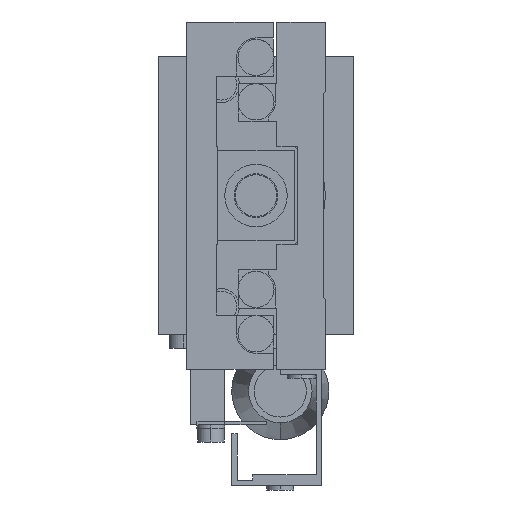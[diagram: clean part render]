
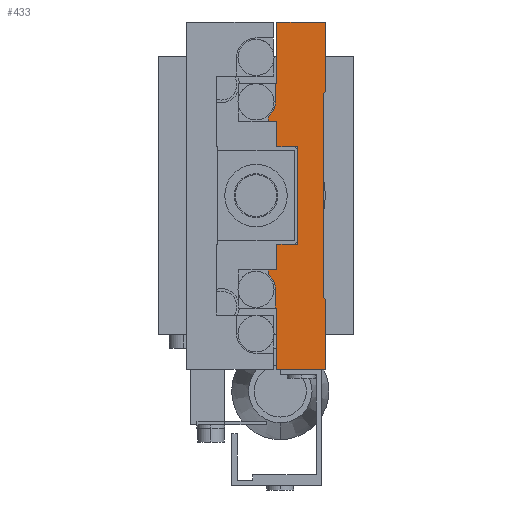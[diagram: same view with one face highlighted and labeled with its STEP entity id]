
A CAD part, left-side view. The second image highlights one B-rep face of the part: STEP entity #433.
In plain terms, the highlighted planar face has unit normal (-1, 0, 0).
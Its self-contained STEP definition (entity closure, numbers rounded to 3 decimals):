
#433=ADVANCED_FACE('',(#1255),#1256,.F.);
#1255=FACE_OUTER_BOUND('',#2740,.T.);
#1256=PLANE('',#2741);
#2740=EDGE_LOOP('',(#4895,#4896,#4897,#4898,#4899,#4900,#4901,#4902,#4903,#4904,#4905,#4906,#4907,#4908,#4909,#4910,#4911,#4912,#4913,#4914,#4915,#4916,#4917,#4918));
#2741=AXIS2_PLACEMENT_3D('',#4919,#4920,#4921);
#4895=ORIENTED_EDGE('',*,*,#9823,.T.);
#4896=ORIENTED_EDGE('',*,*,#9824,.T.);
#4897=ORIENTED_EDGE('',*,*,#9825,.T.);
#4898=ORIENTED_EDGE('',*,*,#9826,.F.);
#4899=ORIENTED_EDGE('',*,*,#9827,.F.);
#4900=ORIENTED_EDGE('',*,*,#9828,.F.);
#4901=ORIENTED_EDGE('',*,*,#9829,.F.);
#4902=ORIENTED_EDGE('',*,*,#9830,.F.);
#4903=ORIENTED_EDGE('',*,*,#9831,.F.);
#4904=ORIENTED_EDGE('',*,*,#9832,.F.);
#4905=ORIENTED_EDGE('',*,*,#9833,.F.);
#4906=ORIENTED_EDGE('',*,*,#9834,.F.);
#4907=ORIENTED_EDGE('',*,*,#9835,.F.);
#4908=ORIENTED_EDGE('',*,*,#9836,.F.);
#4909=ORIENTED_EDGE('',*,*,#9837,.T.);
#4910=ORIENTED_EDGE('',*,*,#9838,.T.);
#4911=ORIENTED_EDGE('',*,*,#9839,.T.);
#4912=ORIENTED_EDGE('',*,*,#9840,.F.);
#4913=ORIENTED_EDGE('',*,*,#9841,.F.);
#4914=ORIENTED_EDGE('',*,*,#9842,.F.);
#4915=ORIENTED_EDGE('',*,*,#9817,.F.);
#4916=ORIENTED_EDGE('',*,*,#9843,.F.);
#4917=ORIENTED_EDGE('',*,*,#9844,.F.);
#4918=ORIENTED_EDGE('',*,*,#9845,.F.);
#4919=CARTESIAN_POINT('',(-25.0,0.,0.0));
#4920=DIRECTION('',(1.0,0.0,0.0));
#4921=DIRECTION('',(0.0,1.0,0.0));
#9817=EDGE_CURVE('',#11773,#11774,#11775,.T.);
#9823=EDGE_CURVE('',#11784,#11785,#11786,.T.);
#9824=EDGE_CURVE('',#11785,#11787,#11788,.T.);
#9825=EDGE_CURVE('',#11787,#11789,#11790,.T.);
#9826=EDGE_CURVE('',#11791,#11789,#11792,.T.);
#9827=EDGE_CURVE('',#11793,#11791,#11794,.T.);
#9828=EDGE_CURVE('',#11795,#11793,#11796,.T.);
#9829=EDGE_CURVE('',#11797,#11795,#11798,.T.);
#9830=EDGE_CURVE('',#11799,#11797,#11800,.T.);
#9831=EDGE_CURVE('',#11801,#11799,#11802,.T.);
#9832=EDGE_CURVE('',#11803,#11801,#11804,.T.);
#9833=EDGE_CURVE('',#11805,#11803,#11806,.T.);
#9834=EDGE_CURVE('',#11807,#11805,#11808,.T.);
#9835=EDGE_CURVE('',#11809,#11807,#11810,.T.);
#9836=EDGE_CURVE('',#11811,#11809,#11812,.T.);
#9837=EDGE_CURVE('',#11811,#11813,#11814,.T.);
#9838=EDGE_CURVE('',#11813,#11815,#11816,.T.);
#9839=EDGE_CURVE('',#11815,#11817,#11818,.T.);
#9840=EDGE_CURVE('',#11819,#11817,#11820,.T.);
#9841=EDGE_CURVE('',#11821,#11819,#11822,.T.);
#9842=EDGE_CURVE('',#11774,#11821,#11823,.T.);
#9843=EDGE_CURVE('',#11824,#11773,#11825,.T.);
#9844=EDGE_CURVE('',#11826,#11824,#11827,.T.);
#9845=EDGE_CURVE('',#11784,#11826,#11828,.T.);
#11773=VERTEX_POINT('',#14803);
#11774=VERTEX_POINT('',#14804);
#11775=LINE('',#14805,#14806);
#11784=VERTEX_POINT('',#14818);
#11785=VERTEX_POINT('',#14819);
#11786=LINE('',#14820,#14821);
#11787=VERTEX_POINT('',#14822);
#11788=CIRCLE('',#14823,2.8);
#11789=VERTEX_POINT('',#14824);
#11790=LINE('',#14825,#14826);
#11791=VERTEX_POINT('',#14827);
#11792=LINE('',#14828,#14829);
#11793=VERTEX_POINT('',#14830);
#11794=LINE('',#14831,#14832);
#11795=VERTEX_POINT('',#14833);
#11796=LINE('',#14834,#14835);
#11797=VERTEX_POINT('',#14836);
#11798=LINE('',#14837,#14838);
#11799=VERTEX_POINT('',#14839);
#11800=LINE('',#14840,#14841);
#11801=VERTEX_POINT('',#14842);
#11802=LINE('',#14843,#14844);
#11803=VERTEX_POINT('',#14845);
#11804=LINE('',#14846,#14847);
#11805=VERTEX_POINT('',#14848);
#11806=LINE('',#14849,#14850);
#11807=VERTEX_POINT('',#14851);
#11808=LINE('',#14852,#14853);
#11809=VERTEX_POINT('',#14854);
#11810=LINE('',#14855,#14856);
#11811=VERTEX_POINT('',#14857);
#11812=LINE('',#14858,#14859);
#11813=VERTEX_POINT('',#14860);
#11814=LINE('',#14861,#14862);
#11815=VERTEX_POINT('',#14863);
#11816=CIRCLE('',#14864,2.8);
#11817=VERTEX_POINT('',#14865);
#11818=LINE('',#14866,#14867);
#11819=VERTEX_POINT('',#14868);
#11820=LINE('',#14869,#14870);
#11821=VERTEX_POINT('',#14871);
#11822=LINE('',#14872,#14873);
#11823=LINE('',#14874,#14875);
#11824=VERTEX_POINT('',#14876);
#11825=LINE('',#14877,#14878);
#11826=VERTEX_POINT('',#14879);
#11827=LINE('',#14880,#14881);
#11828=LINE('',#14882,#14883);
#14803=CARTESIAN_POINT('',(-25.0,4.0,-7.0));
#14804=CARTESIAN_POINT('',(-25.0,4.0,7.0));
#14805=CARTESIAN_POINT('',(-25.0,4.0,-7.0));
#14806=VECTOR('',#18585,1000.0);
#14818=CARTESIAN_POINT('',(-25.0,8.2,-10.7));
#14819=CARTESIAN_POINT('',(-25.0,8.2,-11.355));
#14820=CARTESIAN_POINT('',(-25.0,8.2,-10.7));
#14821=VECTOR('',#18595,1000.0);
#14822=CARTESIAN_POINT('',(-25.0,7.2,-13.5));
#14823=AXIS2_PLACEMENT_3D('',#18596,#18597,#18598);
#14824=CARTESIAN_POINT('',(-25.0,7.2,-16.2));
#14825=CARTESIAN_POINT('',(-25.0,7.2,-13.5));
#14826=VECTOR('',#18599,1000.0);
#14827=CARTESIAN_POINT('',(-25.0,7.0,-16.2));
#14828=CARTESIAN_POINT('',(-25.0,7.0,-16.2));
#14829=VECTOR('',#18600,1000.0);
#14830=CARTESIAN_POINT('',(-25.0,7.0,-25.0));
#14831=CARTESIAN_POINT('',(-25.0,7.0,-25.0));
#14832=VECTOR('',#18601,1000.0);
#14833=CARTESIAN_POINT('',(-25.0,0.,-25.0));
#14834=CARTESIAN_POINT('',(-25.0,0.,-25.0));
#14835=VECTOR('',#18602,1000.0);
#14836=CARTESIAN_POINT('',(-25.0,0.,-15.0));
#14837=CARTESIAN_POINT('',(-25.0,0.,-15.0));
#14838=VECTOR('',#18603,1000.0);
#14839=CARTESIAN_POINT('',(-25.0,0.35,-14.65));
#14840=CARTESIAN_POINT('',(-25.0,0.35,-14.65));
#14841=VECTOR('',#18604,1000.0);
#14842=CARTESIAN_POINT('',(-25.0,0.35,14.65));
#14843=CARTESIAN_POINT('',(-25.0,0.35,14.65));
#14844=VECTOR('',#18605,1000.0);
#14845=CARTESIAN_POINT('',(-25.0,0.,15.0));
#14846=CARTESIAN_POINT('',(-25.0,0.,15.0));
#14847=VECTOR('',#18606,1000.0);
#14848=CARTESIAN_POINT('',(-25.0,0.,25.0));
#14849=CARTESIAN_POINT('',(-25.0,0.,25.0));
#14850=VECTOR('',#18607,1000.0);
#14851=CARTESIAN_POINT('',(-25.0,7.0,25.0));
#14852=CARTESIAN_POINT('',(-25.0,7.0,25.0));
#14853=VECTOR('',#18608,1000.0);
#14854=CARTESIAN_POINT('',(-25.0,7.0,16.2));
#14855=CARTESIAN_POINT('',(-25.0,7.0,16.2));
#14856=VECTOR('',#18609,1000.0);
#14857=CARTESIAN_POINT('',(-25.0,7.2,16.2));
#14858=CARTESIAN_POINT('',(-25.0,12.5,16.2));
#14859=VECTOR('',#18610,1000.0);
#14860=CARTESIAN_POINT('',(-25.0,7.2,13.5));
#14861=CARTESIAN_POINT('',(-25.0,7.2,16.2));
#14862=VECTOR('',#18611,1000.0);
#14863=CARTESIAN_POINT('',(-25.0,8.2,11.355));
#14864=AXIS2_PLACEMENT_3D('',#18612,#18613,#18614);
#14865=CARTESIAN_POINT('',(-25.0,8.2,10.7));
#14866=CARTESIAN_POINT('',(-25.0,8.2,11.355));
#14867=VECTOR('',#18615,1000.0);
#14868=CARTESIAN_POINT('',(-25.0,7.0,10.7));
#14869=CARTESIAN_POINT('',(-25.0,7.0,10.7));
#14870=VECTOR('',#18616,1000.0);
#14871=CARTESIAN_POINT('',(-25.0,7.0,7.0));
#14872=CARTESIAN_POINT('',(-25.0,7.0,7.0));
#14873=VECTOR('',#18617,1000.0);
#14874=CARTESIAN_POINT('',(-25.0,4.0,7.0));
#14875=VECTOR('',#18618,1000.0);
#14876=CARTESIAN_POINT('',(-25.0,7.0,-7.0));
#14877=CARTESIAN_POINT('',(-25.0,7.0,-7.0));
#14878=VECTOR('',#18619,1000.0);
#14879=CARTESIAN_POINT('',(-25.0,7.0,-10.7));
#14880=CARTESIAN_POINT('',(-25.0,7.0,-10.7));
#14881=VECTOR('',#18620,1000.0);
#14882=CARTESIAN_POINT('',(-25.0,12.5,-10.7));
#14883=VECTOR('',#18621,1000.0);
#18585=DIRECTION('',(0.0,0.0,1.0));
#18595=DIRECTION('',(0.0,0.0,-1.0));
#18596=CARTESIAN_POINT('',(-25.0,10.0,-13.5));
#18597=DIRECTION('',(1.0,0.0,0.0));
#18598=DIRECTION('',(0.0,0.0,-1.0));
#18599=DIRECTION('',(0.0,0.0,-1.0));
#18600=DIRECTION('',(0.0,1.0,0.0));
#18601=DIRECTION('',(0.0,0.,1.0));
#18602=DIRECTION('',(0.0,1.0,0.0));
#18603=DIRECTION('',(0.0,0.0,-1.0));
#18604=DIRECTION('',(0.0,-0.707,-0.707));
#18605=DIRECTION('',(0.0,0.0,-1.0));
#18606=DIRECTION('',(0.0,0.707,-0.707));
#18607=DIRECTION('',(0.0,0.0,-1.0));
#18608=DIRECTION('',(0.0,-1.0,0.0));
#18609=DIRECTION('',(0.0,0.,1.0));
#18610=DIRECTION('',(0.0,-1.0,0.0));
#18611=DIRECTION('',(0.0,0.0,-1.0));
#18612=CARTESIAN_POINT('',(-25.0,10.0,13.5));
#18613=DIRECTION('',(1.0,0.0,0.0));
#18614=DIRECTION('',(0.0,0.0,-1.0));
#18615=DIRECTION('',(0.0,0.0,-1.0));
#18616=DIRECTION('',(0.0,1.0,0.0));
#18617=DIRECTION('',(0.0,0.0,1.0));
#18618=DIRECTION('',(0.0,1.0,0.));
#18619=DIRECTION('',(0.0,-1.0,0.));
#18620=DIRECTION('',(0.0,0.0,1.0));
#18621=DIRECTION('',(0.0,-1.0,0.0));
